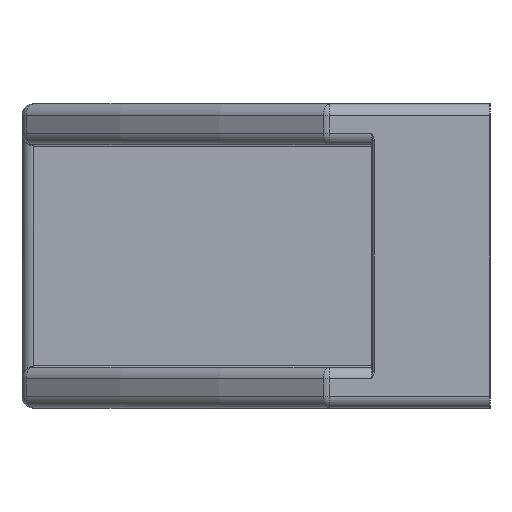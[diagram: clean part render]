
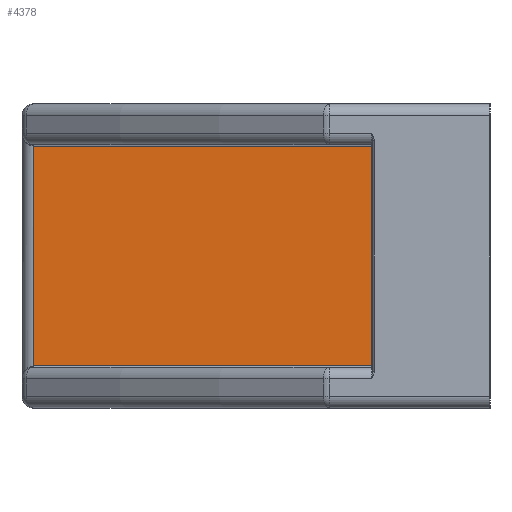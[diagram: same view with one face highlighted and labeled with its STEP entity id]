
A CAD part, left-side view. The second image highlights one B-rep face of the part: STEP entity #4378.
In plain terms, the highlighted planar face has unit normal (-1, 0, 0).
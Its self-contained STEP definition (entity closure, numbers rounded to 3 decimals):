
#521 = CARTESIAN_POINT ( 'NONE',  ( -52., 19., 3.6 ) ) ;
#539 = CARTESIAN_POINT ( 'NONE',  ( -52., 19., 22.4 ) ) ;
#679 = CARTESIAN_POINT ( 'NONE',  ( -52., -9.9, 3.6 ) ) ;
#694 = CARTESIAN_POINT ( 'NONE',  ( -52., -9.9, 22.4 ) ) ;
#1030 = VECTOR ( 'NONE', #3043, 1000. ) ;
#1069 = LINE ( 'NONE', #2722, #1106 ) ;
#1106 = VECTOR ( 'NONE', #2720, 1000. ) ;
#1143 = LINE ( 'NONE', #3058, #1030 ) ;
#1426 = VECTOR ( 'NONE', #2896, 1000. ) ;
#1428 = LINE ( 'NONE', #2918, #1426 ) ;
#1474 = FACE_OUTER_BOUND ( 'NONE', #2786, .T. ) ;
#2234 = DIRECTION ( 'NONE',  ( 0., 0., -1. ) ) ;
#2236 = DIRECTION ( 'NONE',  ( 1., 0., 0. ) ) ;
#2246 = PLANE ( 'NONE',  #3979 ) ;
#2266 = CARTESIAN_POINT ( 'NONE',  ( -52., -10., 3.5 ) ) ;
#2571 = VECTOR ( 'NONE', #4886, 1000. ) ;
#2576 = LINE ( 'NONE', #4887, #2571 ) ;
#2720 = DIRECTION ( 'NONE',  ( 0., 0., -1. ) ) ;
#2722 = CARTESIAN_POINT ( 'NONE',  ( -52., 19., 3.5 ) ) ;
#2786 = EDGE_LOOP ( 'NONE', ( #3407, #3415, #3419, #3420 ) ) ;
#2896 = DIRECTION ( 'NONE',  ( 0., -1., 0. ) ) ;
#2918 = CARTESIAN_POINT ( 'NONE',  ( -52., -10., 3.6 ) ) ;
#3043 = DIRECTION ( 'NONE',  ( 0., 1., 0. ) ) ;
#3058 = CARTESIAN_POINT ( 'NONE',  ( -52., 19., 22.4 ) ) ;
#3407 = ORIENTED_EDGE ( 'NONE', *, *, #4284, .T. ) ;
#3415 = ORIENTED_EDGE ( 'NONE', *, *, #4265, .T. ) ;
#3419 = ORIENTED_EDGE ( 'NONE', *, *, #3923, .T. ) ;
#3420 = ORIENTED_EDGE ( 'NONE', *, *, #4240, .T. ) ;
#3923 = EDGE_CURVE ( 'NONE', #4966, #4955, #2576, .T. ) ;
#3979 = AXIS2_PLACEMENT_3D ( 'NONE', #2266, #2236, #2234 ) ;
#4240 = EDGE_CURVE ( 'NONE', #4955, #5068, #1143, .T. ) ;
#4265 = EDGE_CURVE ( 'NONE', #5080, #4966, #1428, .T. ) ;
#4284 = EDGE_CURVE ( 'NONE', #5068, #5080, #1069, .T. ) ;
#4378 = ADVANCED_FACE ( 'NONE', ( #1474 ), #2246, .F. ) ;
#4886 = DIRECTION ( 'NONE',  ( 0., 0., 1. ) ) ;
#4887 = CARTESIAN_POINT ( 'NONE',  ( -52., -9.9, 3.5 ) ) ;
#4955 = VERTEX_POINT ( 'NONE', #694 ) ;
#4966 = VERTEX_POINT ( 'NONE', #679 ) ;
#5068 = VERTEX_POINT ( 'NONE', #539 ) ;
#5080 = VERTEX_POINT ( 'NONE', #521 ) ;
